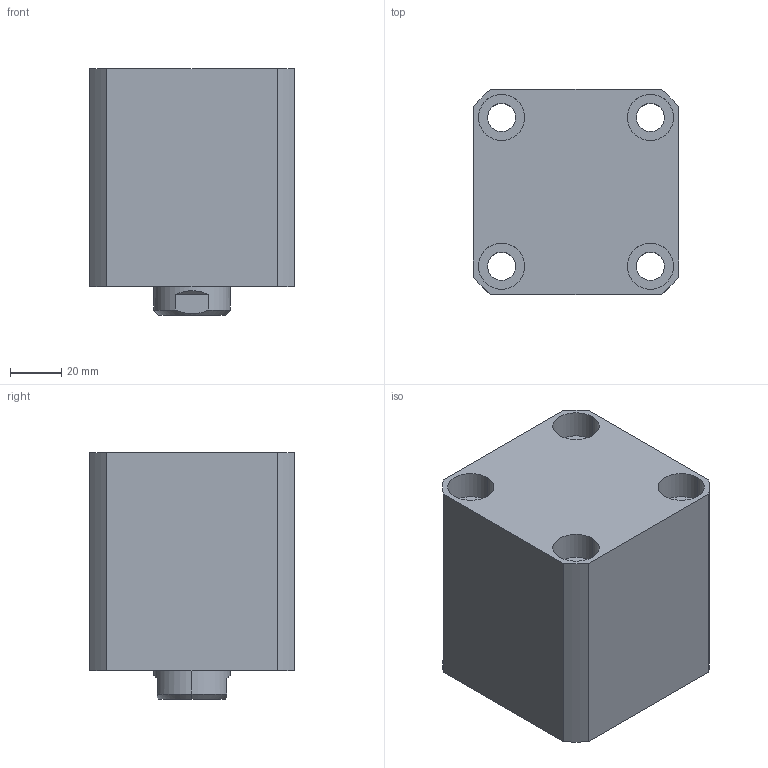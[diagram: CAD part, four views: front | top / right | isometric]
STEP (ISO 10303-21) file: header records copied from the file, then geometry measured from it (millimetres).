
FILE_DESCRIPTION (( 'STEP AP203' ), '1' );
FILE_NAME ('CHTB-SD50-25N.STEP', '2018-05-18T11:58:32', ( '' ), ( '' ), 'SwSTEP 2.0', 'SolidWorks 2015', '' );
FILE_SCHEMA (( 'CONFIG_CONTROL_DESIGN' ));
Length unit declared in the file: millimetre
Products named in the file (4): CHTB-SD50-25N; 活塞杆SD50-25N; CHTM-SD50QG; 掛极SD50-25N
Assembly tree (3 placements, depth 2):
  CHTB-SD50-25N
    掛极SD50-25N
    活塞杆SD50-25N
    CHTM-SD50QG
Bounding box: 80 x 80 x 96 mm (x, y, z)
Volume: 450940.6 mm3; surface area: 95700.6 mm2
Topology: 3 solids, 3 shells, 194 faces, 499 edges, 330 vertices
Faces by surface type: cylinder 104, plane 39, cone 21, torus 16, bspline 14
Entity records: 10789 total; most frequent: CARTESIAN_POINT 5840, ORIENTED_EDGE 986, DIRECTION 914, EDGE_CURVE 493, AXIS2_PLACEMENT_3D 383, VERTEX_POINT 330, EDGE_LOOP 233, CIRCLE 197
